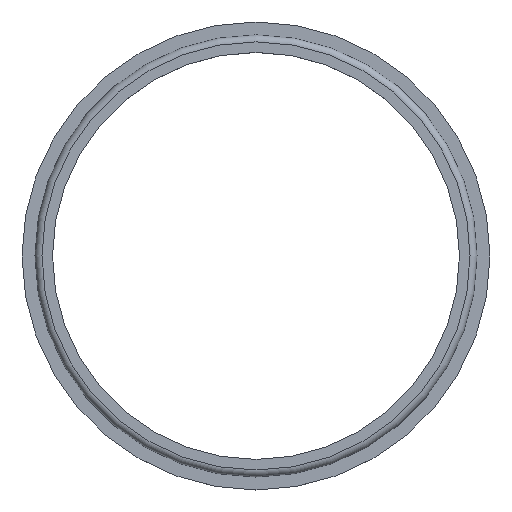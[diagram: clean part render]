
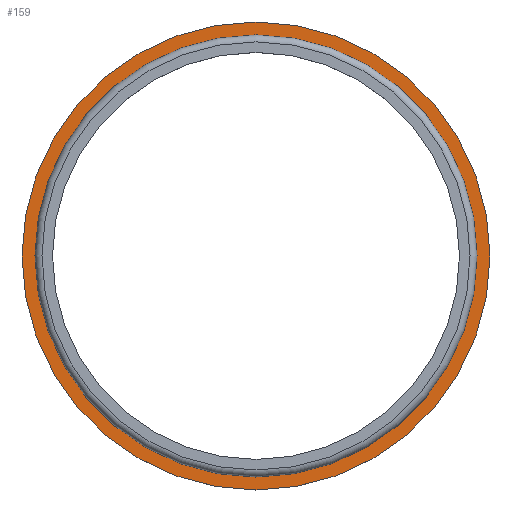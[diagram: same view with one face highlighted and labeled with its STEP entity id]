
A CAD part, top view. The second image highlights one B-rep face of the part: STEP entity #159.
In plain terms, the highlighted planar face has unit normal (0, 0, 1).
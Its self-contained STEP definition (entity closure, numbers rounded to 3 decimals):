
#22 = VERTEX_POINT('',#23);
#23 = CARTESIAN_POINT('',(30.8,0.,129.6));
#32 = CYLINDRICAL_SURFACE('',#33,30.8);
#33 = AXIS2_PLACEMENT_3D('',#34,#35,#36);
#34 = CARTESIAN_POINT('',(0.,0.,129.6));
#35 = DIRECTION('',(0.,0.,1.));
#36 = DIRECTION('',(1.,0.,-0.));
#51 = EDGE_CURVE('',#22,#22,#52,.T.);
#52 = SURFACE_CURVE('',#53,(#58,#65),.PCURVE_S1.);
#53 = CIRCLE('',#54,30.8);
#54 = AXIS2_PLACEMENT_3D('',#55,#56,#57);
#55 = CARTESIAN_POINT('',(0.,0.,129.6));
#56 = DIRECTION('',(0.,0.,1.));
#57 = DIRECTION('',(1.,0.,-0.));
#58 = PCURVE('',#32,#59);
#59 = DEFINITIONAL_REPRESENTATION('',(#60),#64);
#60 = LINE('',#61,#62);
#61 = CARTESIAN_POINT('',(0.,0.));
#62 = VECTOR('',#63,1.);
#63 = DIRECTION('',(1.,0.));
#64 = ( GEOMETRIC_REPRESENTATION_CONTEXT(2) 
PARAMETRIC_REPRESENTATION_CONTEXT() REPRESENTATION_CONTEXT('2D SPACE',''
  ) );
#65 = PCURVE('',#66,#71);
#66 = PLANE('',#67);
#67 = AXIS2_PLACEMENT_3D('',#68,#69,#70);
#68 = CARTESIAN_POINT('',(0.,0.,129.6));
#69 = DIRECTION('',(0.,0.,1.));
#70 = DIRECTION('',(1.,0.,-0.));
#71 = DEFINITIONAL_REPRESENTATION('',(#72),#76);
#72 = CIRCLE('',#73,30.8);
#73 = AXIS2_PLACEMENT_2D('',#74,#75);
#74 = CARTESIAN_POINT('',(0.,0.));
#75 = DIRECTION('',(1.,0.));
#76 = ( GEOMETRIC_REPRESENTATION_CONTEXT(2) 
PARAMETRIC_REPRESENTATION_CONTEXT() REPRESENTATION_CONTEXT('2D SPACE',''
  ) );
#159 = ADVANCED_FACE('',(#160,#191),#66,.T.);
#160 = FACE_BOUND('',#161,.T.);
#161 = EDGE_LOOP('',(#162));
#162 = ORIENTED_EDGE('',*,*,#163,.T.);
#163 = EDGE_CURVE('',#164,#164,#166,.T.);
#164 = VERTEX_POINT('',#165);
#165 = CARTESIAN_POINT('',(32.6,0.,129.6));
#166 = SURFACE_CURVE('',#167,(#172,#179),.PCURVE_S1.);
#167 = CIRCLE('',#168,32.6);
#168 = AXIS2_PLACEMENT_3D('',#169,#170,#171);
#169 = CARTESIAN_POINT('',(0.,0.,129.6));
#170 = DIRECTION('',(0.,0.,1.));
#171 = DIRECTION('',(1.,0.,-0.));
#172 = PCURVE('',#66,#173);
#173 = DEFINITIONAL_REPRESENTATION('',(#174),#178);
#174 = CIRCLE('',#175,32.6);
#175 = AXIS2_PLACEMENT_2D('',#176,#177);
#176 = CARTESIAN_POINT('',(0.,0.));
#177 = DIRECTION('',(1.,0.));
#178 = ( GEOMETRIC_REPRESENTATION_CONTEXT(2) 
PARAMETRIC_REPRESENTATION_CONTEXT() REPRESENTATION_CONTEXT('2D SPACE',''
  ) );
#179 = PCURVE('',#180,#185);
#180 = CYLINDRICAL_SURFACE('',#181,32.6);
#181 = AXIS2_PLACEMENT_3D('',#182,#183,#184);
#182 = CARTESIAN_POINT('',(0.,0.,128.4));
#183 = DIRECTION('',(0.,0.,1.));
#184 = DIRECTION('',(1.,0.,-0.));
#185 = DEFINITIONAL_REPRESENTATION('',(#186),#190);
#186 = LINE('',#187,#188);
#187 = CARTESIAN_POINT('',(0.,1.2));
#188 = VECTOR('',#189,1.);
#189 = DIRECTION('',(1.,0.));
#190 = ( GEOMETRIC_REPRESENTATION_CONTEXT(2) 
PARAMETRIC_REPRESENTATION_CONTEXT() REPRESENTATION_CONTEXT('2D SPACE',''
  ) );
#191 = FACE_BOUND('',#192,.T.);
#192 = EDGE_LOOP('',(#193));
#193 = ORIENTED_EDGE('',*,*,#51,.F.);
